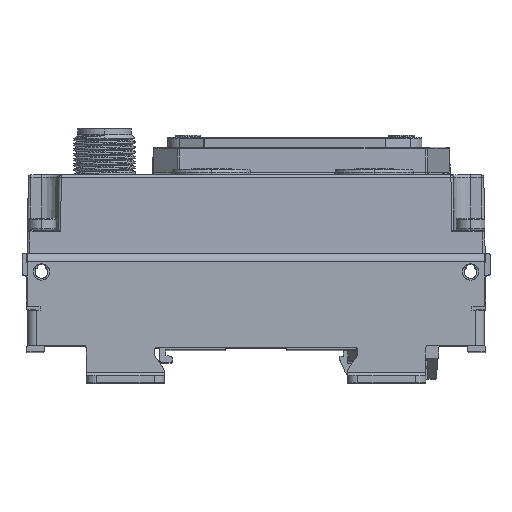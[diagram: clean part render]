
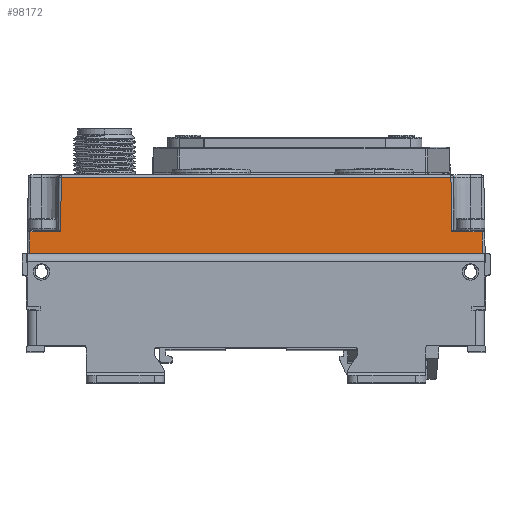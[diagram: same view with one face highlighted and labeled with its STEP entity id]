
A CAD part, top view. The second image highlights one B-rep face of the part: STEP entity #98172.
In plain terms, the highlighted planar face has unit normal (0, 0.018, 1).
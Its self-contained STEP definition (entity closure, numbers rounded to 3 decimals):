
#228 = EDGE_CURVE ( 'NONE', #72743, #80115, #22644, .T. ) ;
#774 = DIRECTION ( 'NONE',  ( -1., 0., 0. ) ) ;
#1039 = LINE ( 'NONE', #141843, #79622 ) ;
#2059 = CARTESIAN_POINT ( 'NONE',  ( 70.88, -100.694, 109.897 ) ) ;
#7050 = EDGE_CURVE ( 'NONE', #80115, #13119, #67326, .T. ) ;
#9764 = CARTESIAN_POINT ( 'NONE',  ( 70.775, -94.689, 109.792 ) ) ;
#13119 = VERTEX_POINT ( 'NONE', #203884 ) ;
#13229 = VERTEX_POINT ( 'NONE', #2059 ) ;
#13842 = ORIENTED_EDGE ( 'NONE', *, *, #150664, .F. ) ;
#21223 = CARTESIAN_POINT ( 'NONE',  ( -18.236, -100.694, 109.897 ) ) ;
#22644 = LINE ( 'NONE', #145613, #27975 ) ;
#26861 = CARTESIAN_POINT ( 'NONE',  ( 26.322, -94.689, 109.792 ) ) ;
#27975 = VECTOR ( 'NONE', #774, 1000. ) ;
#28145 = EDGE_CURVE ( 'NONE', #94292, #141560, #175846, .T. ) ;
#29119 = VECTOR ( 'NONE', #187221, 1000. ) ;
#31346 = ORIENTED_EDGE ( 'NONE', *, *, #151207, .T. ) ;
#32625 = VECTOR ( 'NONE', #76530, 1000. ) ;
#35358 = DIRECTION ( 'NONE',  ( -1., 0., 0. ) ) ;
#35581 = CARTESIAN_POINT ( 'NONE',  ( 64.631, -83.986, 109.605 ) ) ;
#35648 = ORIENTED_EDGE ( 'NONE', *, *, #131556, .T. ) ;
#38805 = PLANE ( 'NONE',  #73245 ) ;
#39615 = VECTOR ( 'NONE', #116307, 1000. ) ;
#40992 = LINE ( 'NONE', #105115, #45225 ) ;
#41781 = VECTOR ( 'NONE', #35358, 1000. ) ;
#43859 = VECTOR ( 'NONE', #119270, 1000. ) ;
#45225 = VECTOR ( 'NONE', #121707, 1000. ) ;
#45484 = DIRECTION ( 'NONE',  ( -0.017, -1., 0.017 ) ) ;
#52098 = EDGE_LOOP ( 'NONE', ( #140054, #166902, #152796, #35648, #117021, #76925, #67919, #13842, #198327, #116837, #184016, #31346 ) ) ;
#56223 = LINE ( 'NONE', #83176, #39615 ) ;
#58682 = CARTESIAN_POINT ( 'NONE',  ( -14.595, -100.694, 109.897 ) ) ;
#61819 = CARTESIAN_POINT ( 'NONE',  ( -11.987, -83.986, 109.605 ) ) ;
#62331 = DIRECTION ( 'NONE',  ( 1., 0., 0. ) ) ;
#66788 = FACE_OUTER_BOUND ( 'NONE', #52098, .T. ) ;
#67326 = LINE ( 'NONE', #191484, #171392 ) ;
#67797 = DIRECTION ( 'NONE',  ( 0., -1., 0.017 ) ) ;
#67919 = ORIENTED_EDGE ( 'NONE', *, *, #83735, .T. ) ;
#69966 = VERTEX_POINT ( 'NONE', #156088 ) ;
#71631 = CARTESIAN_POINT ( 'NONE',  ( -11.987, -83.986, 109.605 ) ) ;
#72144 = CARTESIAN_POINT ( 'NONE',  ( -18.236, -100.694, 109.897 ) ) ;
#72743 = VERTEX_POINT ( 'NONE', #92776 ) ;
#73245 = AXIS2_PLACEMENT_3D ( 'NONE', #21223, #101916, #67797 ) ;
#76530 = DIRECTION ( 'NONE',  ( 1., 0., 0. ) ) ;
#76925 = ORIENTED_EDGE ( 'NONE', *, *, #28145, .F. ) ;
#79622 = VECTOR ( 'NONE', #203857, 1000. ) ;
#80115 = VERTEX_POINT ( 'NONE', #58682 ) ;
#83140 = VERTEX_POINT ( 'NONE', #72144 ) ;
#83176 = CARTESIAN_POINT ( 'NONE',  ( 26.322, -83.986, 109.605 ) ) ;
#83735 = EDGE_CURVE ( 'NONE', #94292, #83140, #110656, .T. ) ;
#85667 = CARTESIAN_POINT ( 'NONE',  ( 70.6, -100.694, 109.897 ) ) ;
#86252 = EDGE_CURVE ( 'NONE', #139210, #72743, #40992, .T. ) ;
#87068 = VECTOR ( 'NONE', #45484, 1000. ) ;
#89817 = EDGE_CURVE ( 'NONE', #69966, #92686, #200684, .T. ) ;
#92686 = VERTEX_POINT ( 'NONE', #9764 ) ;
#92776 = CARTESIAN_POINT ( 'NONE',  ( 67.205, -100.694, 109.897 ) ) ;
#94292 = VERTEX_POINT ( 'NONE', #102198 ) ;
#96121 = LINE ( 'NONE', #172761, #29119 ) ;
#97661 = CARTESIAN_POINT ( 'NONE',  ( 69.745, -100.694, 109.897 ) ) ;
#98172 = ADVANCED_FACE ( 'NONE', ( #66788 ), #38805, .F. ) ;
#101175 = LINE ( 'NONE', #85667, #150954 ) ;
#101916 = DIRECTION ( 'NONE',  ( 0., -0.017, -1. ) ) ;
#102198 = CARTESIAN_POINT ( 'NONE',  ( -18.131, -94.689, 109.792 ) ) ;
#104384 = CARTESIAN_POINT ( 'NONE',  ( 26.322, -100.694, 109.897 ) ) ;
#105115 = CARTESIAN_POINT ( 'NONE',  ( 26.322, -100.694, 109.897 ) ) ;
#106571 = EDGE_CURVE ( 'NONE', #140089, #69966, #1039, .T. ) ;
#107576 = CARTESIAN_POINT ( 'NONE',  ( -18.184, -97.693, 109.844 ) ) ;
#110656 = LINE ( 'NONE', #107576, #87068 ) ;
#111940 = EDGE_CURVE ( 'NONE', #141560, #193916, #131704, .T. ) ;
#113764 = CARTESIAN_POINT ( 'NONE',  ( 26.322, -94.689, 109.792 ) ) ;
#116307 = DIRECTION ( 'NONE',  ( -1., 0., 0. ) ) ;
#116837 = ORIENTED_EDGE ( 'NONE', *, *, #228, .F. ) ;
#117021 = ORIENTED_EDGE ( 'NONE', *, *, #111940, .F. ) ;
#119270 = DIRECTION ( 'NONE',  ( 0.009, 1., -0.017 ) ) ;
#121707 = DIRECTION ( 'NONE',  ( -1., 0., 0. ) ) ;
#128078 = EDGE_CURVE ( 'NONE', #13229, #92686, #96121, .T. ) ;
#129561 = VECTOR ( 'NONE', #62331, 1000. ) ;
#130466 = DIRECTION ( 'NONE',  ( -1., 0., 0. ) ) ;
#131556 = EDGE_CURVE ( 'NONE', #140089, #193916, #56223, .T. ) ;
#131704 = LINE ( 'NONE', #71631, #43859 ) ;
#139210 = VERTEX_POINT ( 'NONE', #97661 ) ;
#140054 = ORIENTED_EDGE ( 'NONE', *, *, #128078, .T. ) ;
#140089 = VERTEX_POINT ( 'NONE', #35581 ) ;
#141560 = VERTEX_POINT ( 'NONE', #172882 ) ;
#141843 = CARTESIAN_POINT ( 'NONE',  ( 64.631, -83.986, 109.605 ) ) ;
#145613 = CARTESIAN_POINT ( 'NONE',  ( 26.322, -100.694, 109.897 ) ) ;
#150664 = EDGE_CURVE ( 'NONE', #13119, #83140, #183010, .T. ) ;
#150954 = VECTOR ( 'NONE', #163296, 1000. ) ;
#151207 = EDGE_CURVE ( 'NONE', #139210, #13229, #101175, .T. ) ;
#152796 = ORIENTED_EDGE ( 'NONE', *, *, #106571, .F. ) ;
#156088 = CARTESIAN_POINT ( 'NONE',  ( 64.725, -94.689, 109.792 ) ) ;
#163296 = DIRECTION ( 'NONE',  ( 1., 0., 0. ) ) ;
#166902 = ORIENTED_EDGE ( 'NONE', *, *, #89817, .F. ) ;
#171392 = VECTOR ( 'NONE', #130466, 1000. ) ;
#172761 = CARTESIAN_POINT ( 'NONE',  ( 70.828, -97.693, 109.844 ) ) ;
#172882 = CARTESIAN_POINT ( 'NONE',  ( -12.081, -94.689, 109.792 ) ) ;
#175846 = LINE ( 'NONE', #113764, #129561 ) ;
#183010 = LINE ( 'NONE', #104384, #41781 ) ;
#184016 = ORIENTED_EDGE ( 'NONE', *, *, #86252, .F. ) ;
#187221 = DIRECTION ( 'NONE',  ( -0.017, 1., -0.017 ) ) ;
#191484 = CARTESIAN_POINT ( 'NONE',  ( 26.322, -100.694, 109.897 ) ) ;
#193916 = VERTEX_POINT ( 'NONE', #61819 ) ;
#198327 = ORIENTED_EDGE ( 'NONE', *, *, #7050, .F. ) ;
#200684 = LINE ( 'NONE', #26861, #32625 ) ;
#203857 = DIRECTION ( 'NONE',  ( 0.009, -1., 0.017 ) ) ;
#203884 = CARTESIAN_POINT ( 'NONE',  ( -17.135, -100.694, 109.897 ) ) ;
